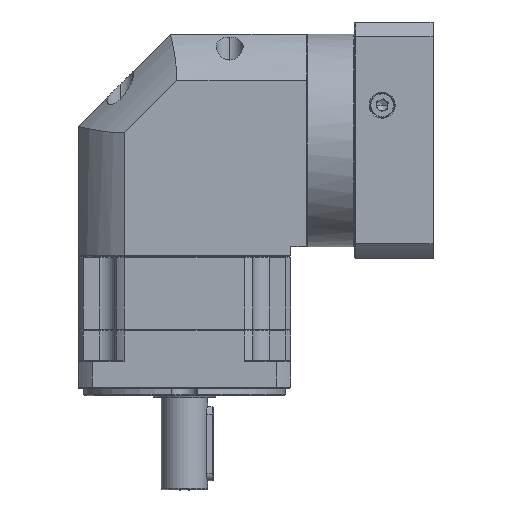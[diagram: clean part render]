
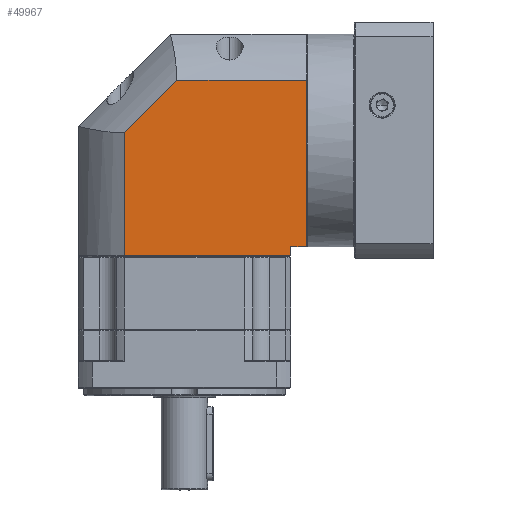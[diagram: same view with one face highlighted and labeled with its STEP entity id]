
A CAD part, front view. The second image highlights one B-rep face of the part: STEP entity #49967.
In plain terms, the highlighted planar face has unit normal (0, -1, 0).
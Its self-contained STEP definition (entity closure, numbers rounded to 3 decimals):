
#1621 = PLANE ( 'NONE',  #51318 ) ;
#1863 = VECTOR ( 'NONE', #59777, 1000. ) ;
#2361 = ORIENTED_EDGE ( 'NONE', *, *, #73143, .F. ) ;
#3079 = EDGE_CURVE ( 'NONE', #100018, #21805, #40140, .T. ) ;
#4072 = CARTESIAN_POINT ( 'NONE',  ( 99.932, 1.007, -60.723 ) ) ;
#8279 = DIRECTION ( 'NONE',  ( 0.707, 0., 0.707 ) ) ;
#11942 = CARTESIAN_POINT ( 'NONE',  ( -15.068, 1.007, -55.723 ) ) ;
#13011 = LINE ( 'NONE', #114997, #107733 ) ;
#19215 = FACE_OUTER_BOUND ( 'NONE', #104543, .T. ) ;
#20417 = EDGE_CURVE ( 'NONE', #43448, #137874, #13011, .T. ) ;
#21805 = VERTEX_POINT ( 'NONE', #4072 ) ;
#23992 = CARTESIAN_POINT ( 'NONE',  ( -15.068, 1.007, -67.223 ) ) ;
#25873 = ORIENTED_EDGE ( 'NONE', *, *, #20417, .F. ) ;
#33841 = EDGE_CURVE ( 'NONE', #137874, #34818, #75335, .T. ) ;
#34818 = VERTEX_POINT ( 'NONE', #35631 ) ;
#35631 = CARTESIAN_POINT ( 'NONE',  ( 108.332, 1.007, 34.177 ) ) ;
#38500 = ORIENTED_EDGE ( 'NONE', *, *, #39911, .F. ) ;
#39911 = EDGE_CURVE ( 'NONE', #65263, #43448, #53354, .T. ) ;
#40140 = LINE ( 'NONE', #68647, #1863 ) ;
#40259 = CARTESIAN_POINT ( 'NONE',  ( 10.033, 1.007, 5.839 ) ) ;
#41734 = CARTESIAN_POINT ( 'NONE',  ( 108.332, 1.007, -55.723 ) ) ;
#43448 = VERTEX_POINT ( 'NONE', #40259 ) ;
#48117 = EDGE_CURVE ( 'NONE', #34818, #117669, #131602, .T. ) ;
#49967 = ADVANCED_FACE ( 'NONE', ( #19215 ), #1621, .F. ) ;
#50279 = ORIENTED_EDGE ( 'NONE', *, *, #48117, .F. ) ;
#51318 = AXIS2_PLACEMENT_3D ( 'NONE', #23992, #108866, #55521 ) ;
#51981 = LINE ( 'NONE', #91689, #106841 ) ;
#52968 = EDGE_CURVE ( 'NONE', #21805, #65263, #51981, .T. ) ;
#53354 = LINE ( 'NONE', #55412, #121600 ) ;
#55412 = CARTESIAN_POINT ( 'NONE',  ( 10.033, 1.007, -67.223 ) ) ;
#55521 = DIRECTION ( 'NONE',  ( 1., 0., 0. ) ) ;
#57050 = VECTOR ( 'NONE', #127821, 1000. ) ;
#58412 = VECTOR ( 'NONE', #93702, 1000. ) ;
#59777 = DIRECTION ( 'NONE',  ( 0., 0., -1. ) ) ;
#62196 = ORIENTED_EDGE ( 'NONE', *, *, #52968, .F. ) ;
#64401 = ORIENTED_EDGE ( 'NONE', *, *, #3079, .F. ) ;
#65263 = VERTEX_POINT ( 'NONE', #111830 ) ;
#68647 = CARTESIAN_POINT ( 'NONE',  ( 99.932, 1.007, -67.223 ) ) ;
#73143 = EDGE_CURVE ( 'NONE', #117669, #100018, #123413, .T. ) ;
#75335 = LINE ( 'NONE', #134751, #57050 ) ;
#75659 = DIRECTION ( 'NONE',  ( -1., 0., 0. ) ) ;
#76841 = DIRECTION ( 'NONE',  ( 0., 0., 1. ) ) ;
#84274 = CARTESIAN_POINT ( 'NONE',  ( 38.371, 1.007, 34.177 ) ) ;
#91689 = CARTESIAN_POINT ( 'NONE',  ( -15.068, 1.007, -60.723 ) ) ;
#93702 = DIRECTION ( 'NONE',  ( 0., 0., -1. ) ) ;
#99602 = ORIENTED_EDGE ( 'NONE', *, *, #33841, .F. ) ;
#100018 = VERTEX_POINT ( 'NONE', #113627 ) ;
#104543 = EDGE_LOOP ( 'NONE', ( #64401, #2361, #50279, #99602, #25873, #38500, #62196 ) ) ;
#106841 = VECTOR ( 'NONE', #114289, 1000. ) ;
#107733 = VECTOR ( 'NONE', #8279, 1000. ) ;
#108866 = DIRECTION ( 'NONE',  ( 0., 1., 0. ) ) ;
#111830 = CARTESIAN_POINT ( 'NONE',  ( 10.033, 1.007, -60.723 ) ) ;
#113627 = CARTESIAN_POINT ( 'NONE',  ( 99.932, 1.007, -55.723 ) ) ;
#114289 = DIRECTION ( 'NONE',  ( -1., 0., 0. ) ) ;
#114997 = CARTESIAN_POINT ( 'NONE',  ( 10.033, 1.007, 5.839 ) ) ;
#117669 = VERTEX_POINT ( 'NONE', #41734 ) ;
#121600 = VECTOR ( 'NONE', #76841, 1000. ) ;
#123413 = LINE ( 'NONE', #11942, #125136 ) ;
#125136 = VECTOR ( 'NONE', #75659, 1000. ) ;
#125698 = CARTESIAN_POINT ( 'NONE',  ( 108.332, 1.007, -67.223 ) ) ;
#127821 = DIRECTION ( 'NONE',  ( 1., 0., 0. ) ) ;
#131602 = LINE ( 'NONE', #125698, #58412 ) ;
#134751 = CARTESIAN_POINT ( 'NONE',  ( -15.068, 1.007, 34.177 ) ) ;
#137874 = VERTEX_POINT ( 'NONE', #84274 ) ;
